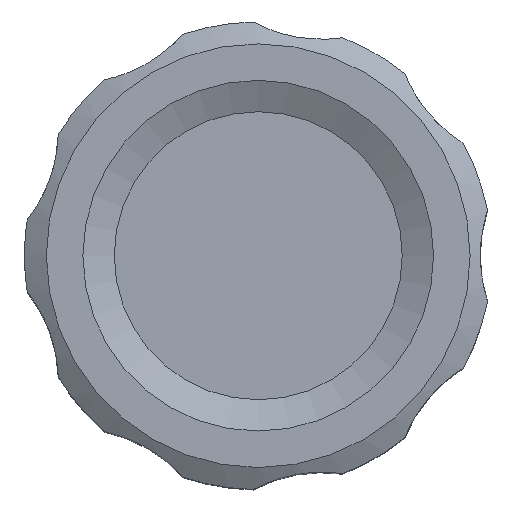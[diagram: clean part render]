
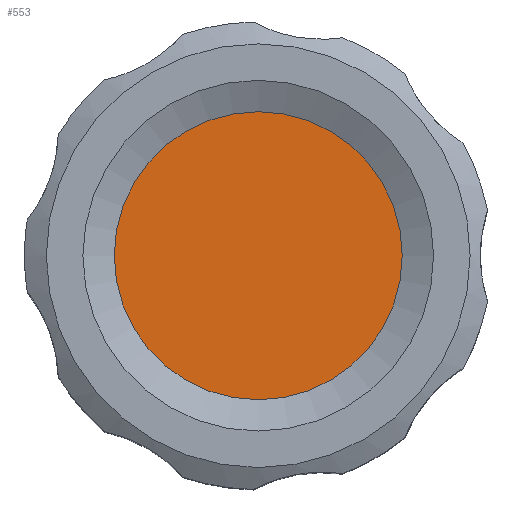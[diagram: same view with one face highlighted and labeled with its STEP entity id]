
A CAD part, top view. The second image highlights one B-rep face of the part: STEP entity #553.
In plain terms, the highlighted planar face has unit normal (0, 0, 1).
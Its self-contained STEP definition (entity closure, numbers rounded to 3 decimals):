
#145=FACE_OUTER_BOUND('',#183,.T.);
#183=EDGE_LOOP('',(#513));
#225=CIRCLE('',#642,4.928);
#276=VERTEX_POINT('',#1068);
#355=EDGE_CURVE('',#276,#276,#225,.T.);
#513=ORIENTED_EDGE('',*,*,#355,.T.);
#519=PLANE('',#643);
#553=ADVANCED_FACE('',(#145),#519,.T.);
#642=AXIS2_PLACEMENT_3D('',#1070,#822,#823);
#643=AXIS2_PLACEMENT_3D('',#1071,#824,#825);
#822=DIRECTION('center_axis',(0.,0.,1.));
#823=DIRECTION('ref_axis',(-1.,0.,0.));
#824=DIRECTION('center_axis',(0.,0.,1.));
#825=DIRECTION('ref_axis',(-1.,0.,0.));
#1068=CARTESIAN_POINT('',(4.928,0.,10.5));
#1070=CARTESIAN_POINT('Origin',(0.,0.,10.5));
#1071=CARTESIAN_POINT('Origin',(0.,0.,10.5));
